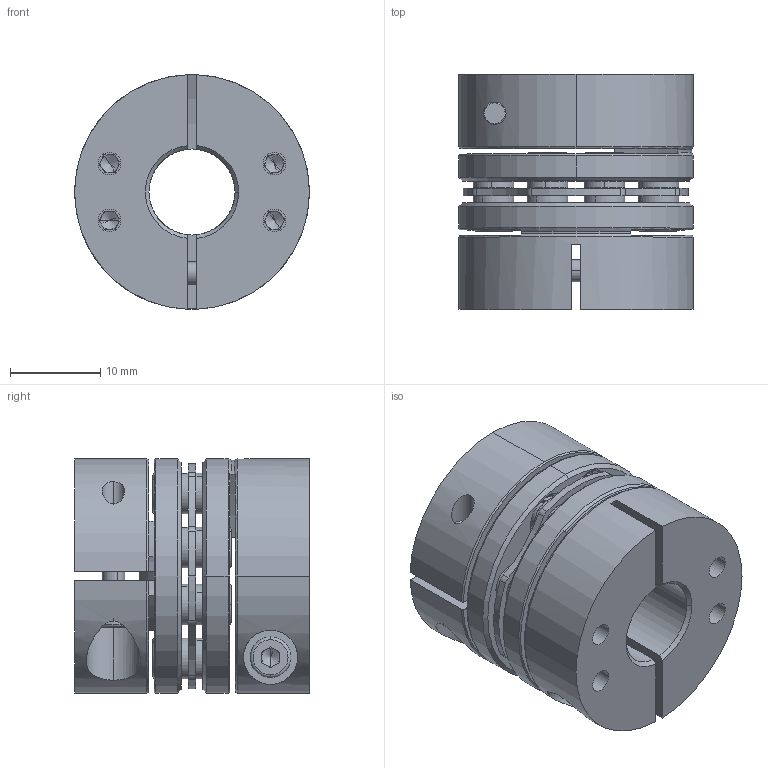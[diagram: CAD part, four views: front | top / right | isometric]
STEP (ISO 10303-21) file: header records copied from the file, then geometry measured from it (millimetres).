
FILE_DESCRIPTION (( 'STEP AP203' ), '1' );
FILE_NAME ('LDG-D26-9.525-9.525.STEP', '2021-10-28T04:28:46', ( '' ), ( '' ), 'SwSTEP 2.0', 'SolidWorks 2018', '' );
FILE_SCHEMA (( 'CONFIG_CONTROL_DESIGN' ));
Length unit declared in the file: millimetre
Products named in the file (2): 錨璃2^LDG-D26蚾饜芞1; LDG-D26-9.525-9.525
Assembly tree (1 placements, depth 2):
  LDG-D26-9.525-9.525
    錨璃2^LDG-D26蚾饜芞1
Bounding box: 26 x 26 x 26 mm (x, y, z)
Volume: 9682.2 mm3; surface area: 8944.3 mm2
Topology: 1 solids, 21 shells, 765 faces, 1872 edges, 1159 vertices
Faces by surface type: cylinder 301, plane 244, cone 200, torus 20
Entity records: 23057 total; most frequent: DIRECTION 4281, CARTESIAN_POINT 4164, ORIENTED_EDGE 3688, EDGE_CURVE 1844, AXIS2_PLACEMENT_3D 1740, VERTEX_POINT 1159, CIRCLE 971, EDGE_LOOP 909
